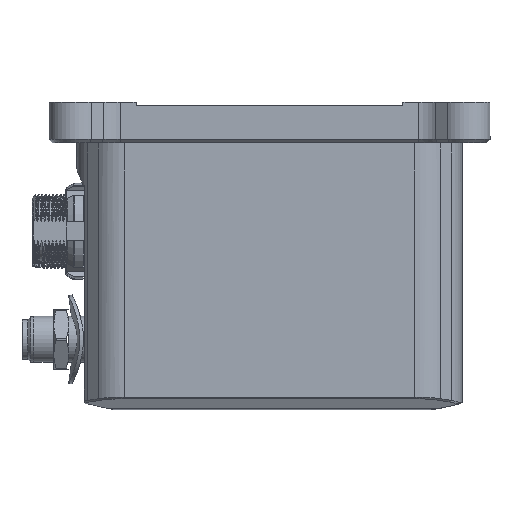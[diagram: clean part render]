
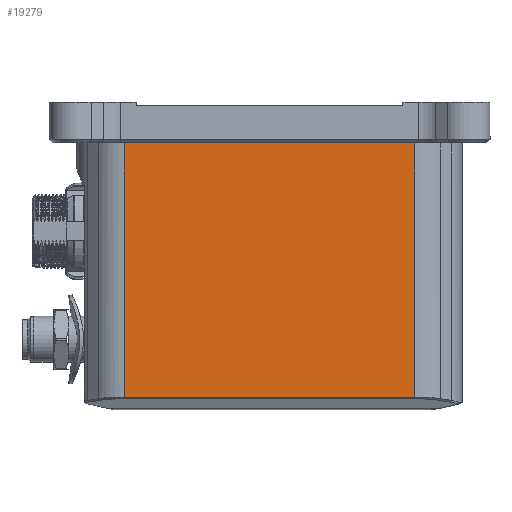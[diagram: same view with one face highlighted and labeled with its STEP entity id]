
A CAD part, front view. The second image highlights one B-rep face of the part: STEP entity #19279.
In plain terms, the highlighted planar face has unit normal (0, -1, 0).
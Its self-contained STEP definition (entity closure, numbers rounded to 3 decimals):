
#693 = ORIENTED_EDGE ( 'NONE', *, *, #84122, .T. ) ;
#4952 = ORIENTED_EDGE ( 'NONE', *, *, #23234, .T. ) ;
#5193 = VERTEX_POINT ( 'NONE', #79228 ) ;
#13724 = VERTEX_POINT ( 'NONE', #18104 ) ;
#13867 = CARTESIAN_POINT ( 'NONE',  ( 19.586, -25., 0. ) ) ;
#18104 = CARTESIAN_POINT ( 'NONE',  ( 19.586, -25., -34.294 ) ) ;
#19279 = ADVANCED_FACE ( 'NONE', ( #80545 ), #74041, .F. ) ;
#19466 = ORIENTED_EDGE ( 'NONE', *, *, #69050, .F. ) ;
#21908 = VECTOR ( 'NONE', #30782, 1000. ) ;
#23234 = EDGE_CURVE ( 'NONE', #46432, #27856, #52293, .T. ) ;
#26900 = CARTESIAN_POINT ( 'NONE',  ( -19.586, -25., 0. ) ) ;
#26948 = DIRECTION ( 'NONE',  ( 0., 0., 1. ) ) ;
#27747 = LINE ( 'NONE', #53823, #46164 ) ;
#27856 = VERTEX_POINT ( 'NONE', #26900 ) ;
#30782 = DIRECTION ( 'NONE',  ( 1., 0., 0. ) ) ;
#31291 = VECTOR ( 'NONE', #26948, 1000. ) ;
#41068 = DIRECTION ( 'NONE',  ( 0., 1., 0. ) ) ;
#42111 = LINE ( 'NONE', #69474, #21908 ) ;
#46164 = VECTOR ( 'NONE', #67270, 1000. ) ;
#46432 = VERTEX_POINT ( 'NONE', #13867 ) ;
#46492 = LINE ( 'NONE', #58653, #31291 ) ;
#49388 = VECTOR ( 'NONE', #79585, 1000. ) ;
#51873 = CARTESIAN_POINT ( 'NONE',  ( 19.586, -25., 0. ) ) ;
#52293 = LINE ( 'NONE', #51873, #49388 ) ;
#53823 = CARTESIAN_POINT ( 'NONE',  ( 19.586, -25., -36. ) ) ;
#57055 = EDGE_CURVE ( 'NONE', #5193, #13724, #42111, .T. ) ;
#58653 = CARTESIAN_POINT ( 'NONE',  ( -19.586, -25., -36. ) ) ;
#62566 = EDGE_LOOP ( 'NONE', ( #19466, #77360, #693, #4952 ) ) ;
#66671 = CARTESIAN_POINT ( 'NONE',  ( 19.586, -25., -36. ) ) ;
#67270 = DIRECTION ( 'NONE',  ( 0., 0., 1. ) ) ;
#67507 = DIRECTION ( 'NONE',  ( 1., 0., 0. ) ) ;
#69050 = EDGE_CURVE ( 'NONE', #5193, #27856, #46492, .T. ) ;
#69474 = CARTESIAN_POINT ( 'NONE',  ( 19.586, -25., -34.294 ) ) ;
#72874 = AXIS2_PLACEMENT_3D ( 'NONE', #66671, #41068, #67507 ) ;
#74041 = PLANE ( 'NONE',  #72874 ) ;
#77360 = ORIENTED_EDGE ( 'NONE', *, *, #57055, .T. ) ;
#79228 = CARTESIAN_POINT ( 'NONE',  ( -19.586, -25., -34.294 ) ) ;
#79585 = DIRECTION ( 'NONE',  ( -1., 0., 0. ) ) ;
#80545 = FACE_OUTER_BOUND ( 'NONE', #62566, .T. ) ;
#84122 = EDGE_CURVE ( 'NONE', #13724, #46432, #27747, .T. ) ;
